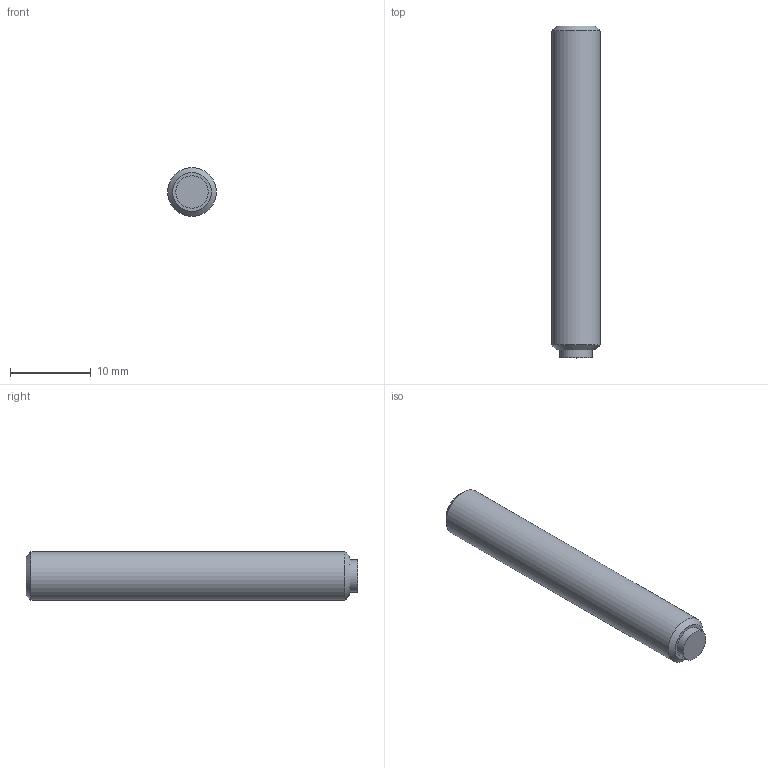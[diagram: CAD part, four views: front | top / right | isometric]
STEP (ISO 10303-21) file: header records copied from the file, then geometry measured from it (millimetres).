
FILE_DESCRIPTION( ( 'STEP AP203' ), '1' );
FILE_NAME( 'C:/Temp/Ganter_Step_05_03_2020/data/3_2/gn913_3/Grub screw GN 913.3-M6-40-MS.stp', '2020-03-13T05:35:49', ( 'License CC BY-ND 4.0' ), ( 'CADENAS' ), ' ', 'PARTsolutions', ' ' );
FILE_SCHEMA( ( 'CONFIG_CONTROL_DESIGN' ) );
Length unit declared in the file: millimetre
Products named in the file (1): _Grub screw GN 913.3-M6-40-MS
Bounding box: 6 x 41 x 6 mm (x, y, z)
Volume: 1109.6 mm3; surface area: 844.9 mm2
Topology: 1 solids, 1 shells, 14 faces, 28 edges, 18 vertices
Faces by surface type: plane 10, cylinder 2, cone 2
Full cylindrical faces by diameter (mm): 4 x1, 6 x1
Entity records: 386 total; most frequent: DIRECTION 60, CARTESIAN_POINT 57, ORIENTED_EDGE 48, EDGE_CURVE 24, AXIS2_PLACEMENT_3D 21, EDGE_LOOP 20, VERTEX_POINT 18, LINE 18
